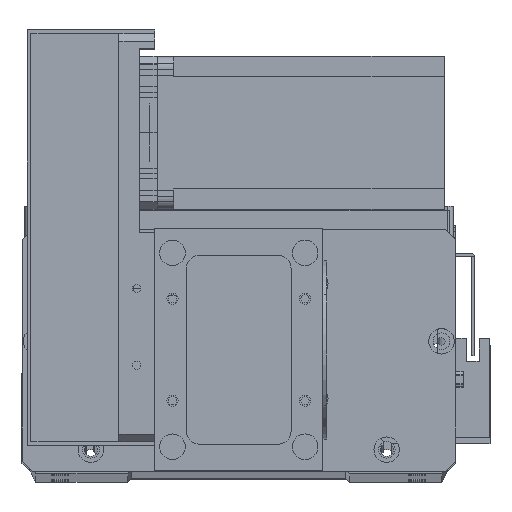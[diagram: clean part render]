
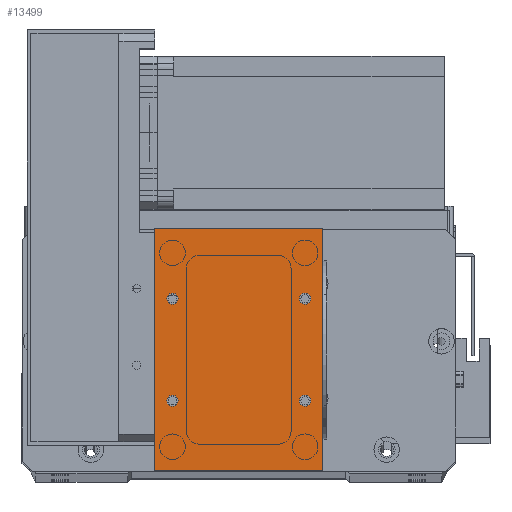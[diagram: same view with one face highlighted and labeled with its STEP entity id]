
A CAD part, top view. The second image highlights one B-rep face of the part: STEP entity #13499.
In plain terms, the highlighted planar face has unit normal (0, 0, 1).
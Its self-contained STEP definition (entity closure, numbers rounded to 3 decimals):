
#14 = AXIS2_PLACEMENT_3D ( 'NONE', #15108, #10049, #27853 ) ;
#118 = DIRECTION ( 'NONE',  ( 0., 0., 1. ) ) ;
#258 = EDGE_CURVE ( 'NONE', #14716, #13928, #6702, .T. ) ;
#390 = AXIS2_PLACEMENT_3D ( 'NONE', #7601, #25397, #10140 ) ;
#731 = DIRECTION ( 'NONE',  ( 1., 0., 0. ) ) ;
#839 = CARTESIAN_POINT ( 'NONE',  ( 56.75, 67.5, 2. ) ) ;
#996 = EDGE_CURVE ( 'NONE', #13928, #11119, #18666, .T. ) ;
#1315 = VERTEX_POINT ( 'NONE', #16679 ) ;
#1662 = AXIS2_PLACEMENT_3D ( 'NONE', #2311, #20110, #4834 ) ;
#1726 = EDGE_CURVE ( 'NONE', #9031, #31202, #25771, .T. ) ;
#1878 = VECTOR ( 'NONE', #11039, 1000. ) ;
#2213 = VECTOR ( 'NONE', #11548, 1000. ) ;
#2311 = CARTESIAN_POINT ( 'NONE',  ( 59., 27.5, 2. ) ) ;
#2386 = DIRECTION ( 'NONE',  ( 0., 0., 1. ) ) ;
#2396 = PLANE ( 'NONE',  #14 ) ;
#2498 = FACE_BOUND ( 'NONE', #16236, .T. ) ;
#2803 = AXIS2_PLACEMENT_3D ( 'NONE', #14616, #32410, #17171 ) ;
#3905 = CARTESIAN_POINT ( 'NONE',  ( 9.25, 67.5, 2. ) ) ;
#4834 = DIRECTION ( 'NONE',  ( 1., 0., 0. ) ) ;
#5098 = VECTOR ( 'NONE', #13788, 1000. ) ;
#5242 = ORIENTED_EDGE ( 'NONE', *, *, #27955, .F. ) ;
#5425 = ORIENTED_EDGE ( 'NONE', *, *, #22621, .F. ) ;
#5805 = AXIS2_PLACEMENT_3D ( 'NONE', #31201, #15973, #731 ) ;
#6588 = ORIENTED_EDGE ( 'NONE', *, *, #24445, .F. ) ;
#6691 = CARTESIAN_POINT ( 'NONE',  ( 61.25, 67.5, 2. ) ) ;
#6702 = LINE ( 'NONE', #16139, #26218 ) ;
#6975 = ORIENTED_EDGE ( 'NONE', *, *, #996, .T. ) ;
#7254 = DIRECTION ( 'NONE',  ( 0., 0., 1. ) ) ;
#7517 = CARTESIAN_POINT ( 'NONE',  ( 66., 0., 2. ) ) ;
#7601 = CARTESIAN_POINT ( 'NONE',  ( 7., 67.5, 2. ) ) ;
#7673 = FACE_OUTER_BOUND ( 'NONE', #32386, .T. ) ;
#8032 = CARTESIAN_POINT ( 'NONE',  ( 59., 27.5, 2. ) ) ;
#8148 = AXIS2_PLACEMENT_3D ( 'NONE', #17638, #2386, #20184 ) ;
#8973 = LINE ( 'NONE', #26772, #2213 ) ;
#9031 = VERTEX_POINT ( 'NONE', #6691 ) ;
#9308 = ORIENTED_EDGE ( 'NONE', *, *, #20634, .T. ) ;
#9886 = VERTEX_POINT ( 'NONE', #27650 ) ;
#10049 = DIRECTION ( 'NONE',  ( 0., 0., -1. ) ) ;
#10140 = DIRECTION ( 'NONE',  ( 1., 0., 0. ) ) ;
#10590 = DIRECTION ( 'NONE',  ( 1., 0., 0. ) ) ;
#11039 = DIRECTION ( 'NONE',  ( 0., -1., 0. ) ) ;
#11119 = VERTEX_POINT ( 'NONE', #22331 ) ;
#11287 = EDGE_LOOP ( 'NONE', ( #11331, #27041 ) ) ;
#11331 = ORIENTED_EDGE ( 'NONE', *, *, #24253, .F. ) ;
#11548 = DIRECTION ( 'NONE',  ( 1., 0., 0. ) ) ;
#13185 = CIRCLE ( 'NONE', #5805, 2.25 ) ;
#13499 = ADVANCED_FACE ( 'NONE', ( #2498, #21991, #21212, #14468, #7673 ), #2396, .F. ) ;
#13788 = DIRECTION ( 'NONE',  ( -1., 0., 0. ) ) ;
#13928 = VERTEX_POINT ( 'NONE', #14595 ) ;
#14468 = FACE_BOUND ( 'NONE', #11287, .T. ) ;
#14595 = CARTESIAN_POINT ( 'NONE',  ( 66., 95., 2. ) ) ;
#14616 = CARTESIAN_POINT ( 'NONE',  ( 59., 67.5, 2. ) ) ;
#14716 = VERTEX_POINT ( 'NONE', #7517 ) ;
#15108 = CARTESIAN_POINT ( 'NONE',  ( 0., 0., 2. ) ) ;
#15368 = CARTESIAN_POINT ( 'NONE',  ( 7., 27.5, 2. ) ) ;
#15811 = EDGE_CURVE ( 'NONE', #26557, #19016, #26232, .T. ) ;
#15973 = DIRECTION ( 'NONE',  ( 0., 0., 1. ) ) ;
#16039 = AXIS2_PLACEMENT_3D ( 'NONE', #8032, #25846, #10590 ) ;
#16139 = CARTESIAN_POINT ( 'NONE',  ( 66., 0., 2. ) ) ;
#16236 = EDGE_LOOP ( 'NONE', ( #6588, #16340 ) ) ;
#16340 = ORIENTED_EDGE ( 'NONE', *, *, #19760, .F. ) ;
#16437 = EDGE_LOOP ( 'NONE', ( #27941, #5242 ) ) ;
#16679 = CARTESIAN_POINT ( 'NONE',  ( 61.25, 27.5, 2. ) ) ;
#17171 = DIRECTION ( 'NONE',  ( 1., 0., 0. ) ) ;
#17638 = CARTESIAN_POINT ( 'NONE',  ( 7., 27.5, 2. ) ) ;
#17658 = EDGE_LOOP ( 'NONE', ( #21405, #5425 ) ) ;
#17927 = DIRECTION ( 'NONE',  ( 1., 0., 0. ) ) ;
#18596 = CIRCLE ( 'NONE', #390, 2.25 ) ;
#18666 = LINE ( 'NONE', #27631, #5098 ) ;
#19016 = VERTEX_POINT ( 'NONE', #28851 ) ;
#19369 = DIRECTION ( 'NONE',  ( 0., 1., 0. ) ) ;
#19760 = EDGE_CURVE ( 'NONE', #20398, #21742, #18596, .T. ) ;
#20110 = DIRECTION ( 'NONE',  ( 0., 0., 1. ) ) ;
#20184 = DIRECTION ( 'NONE',  ( 1., 0., 0. ) ) ;
#20274 = AXIS2_PLACEMENT_3D ( 'NONE', #22489, #7254, #25065 ) ;
#20398 = VERTEX_POINT ( 'NONE', #23019 ) ;
#20634 = EDGE_CURVE ( 'NONE', #9886, #14716, #8973, .T. ) ;
#20789 = CIRCLE ( 'NONE', #16039, 2.25 ) ;
#20878 = CIRCLE ( 'NONE', #1662, 2.25 ) ;
#21212 = FACE_BOUND ( 'NONE', #17658, .T. ) ;
#21405 = ORIENTED_EDGE ( 'NONE', *, *, #32127, .F. ) ;
#21742 = VERTEX_POINT ( 'NONE', #3905 ) ;
#21991 = FACE_BOUND ( 'NONE', #16437, .T. ) ;
#22118 = VERTEX_POINT ( 'NONE', #23854 ) ;
#22164 = LINE ( 'NONE', #31296, #1878 ) ;
#22331 = CARTESIAN_POINT ( 'NONE',  ( 0., 95., 2. ) ) ;
#22489 = CARTESIAN_POINT ( 'NONE',  ( 59., 67.5, 2. ) ) ;
#22621 = EDGE_CURVE ( 'NONE', #22118, #1315, #20789, .T. ) ;
#22720 = ORIENTED_EDGE ( 'NONE', *, *, #29340, .T. ) ;
#22835 = CARTESIAN_POINT ( 'NONE',  ( 4.75, 27.5, 2. ) ) ;
#23019 = CARTESIAN_POINT ( 'NONE',  ( 4.75, 67.5, 2. ) ) ;
#23854 = CARTESIAN_POINT ( 'NONE',  ( 56.75, 27.5, 2. ) ) ;
#24253 = EDGE_CURVE ( 'NONE', #19016, #26557, #25527, .T. ) ;
#24445 = EDGE_CURVE ( 'NONE', #21742, #20398, #13185, .T. ) ;
#25065 = DIRECTION ( 'NONE',  ( 1., 0., 0. ) ) ;
#25397 = DIRECTION ( 'NONE',  ( 0., 0., 1. ) ) ;
#25527 = CIRCLE ( 'NONE', #8148, 2.25 ) ;
#25771 = CIRCLE ( 'NONE', #20274, 2.25 ) ;
#25846 = DIRECTION ( 'NONE',  ( 0., 0., 1. ) ) ;
#26218 = VECTOR ( 'NONE', #19369, 1000. ) ;
#26232 = CIRCLE ( 'NONE', #31396, 2.25 ) ;
#26557 = VERTEX_POINT ( 'NONE', #22835 ) ;
#26772 = CARTESIAN_POINT ( 'NONE',  ( 0., 0., 2. ) ) ;
#27041 = ORIENTED_EDGE ( 'NONE', *, *, #15811, .F. ) ;
#27631 = CARTESIAN_POINT ( 'NONE',  ( 0., 95., 2. ) ) ;
#27650 = CARTESIAN_POINT ( 'NONE',  ( 0., 0., 2. ) ) ;
#27853 = DIRECTION ( 'NONE',  ( -1., 0., 0. ) ) ;
#27941 = ORIENTED_EDGE ( 'NONE', *, *, #1726, .F. ) ;
#27955 = EDGE_CURVE ( 'NONE', #31202, #9031, #31839, .T. ) ;
#28851 = CARTESIAN_POINT ( 'NONE',  ( 9.25, 27.5, 2. ) ) ;
#29340 = EDGE_CURVE ( 'NONE', #11119, #9886, #22164, .T. ) ;
#29509 = ORIENTED_EDGE ( 'NONE', *, *, #258, .T. ) ;
#31201 = CARTESIAN_POINT ( 'NONE',  ( 7., 67.5, 2. ) ) ;
#31202 = VERTEX_POINT ( 'NONE', #839 ) ;
#31296 = CARTESIAN_POINT ( 'NONE',  ( 0., 0., 2. ) ) ;
#31396 = AXIS2_PLACEMENT_3D ( 'NONE', #15368, #118, #17927 ) ;
#31839 = CIRCLE ( 'NONE', #2803, 2.25 ) ;
#32127 = EDGE_CURVE ( 'NONE', #1315, #22118, #20878, .T. ) ;
#32386 = EDGE_LOOP ( 'NONE', ( #22720, #9308, #29509, #6975 ) ) ;
#32410 = DIRECTION ( 'NONE',  ( 0., 0., 1. ) ) ;
